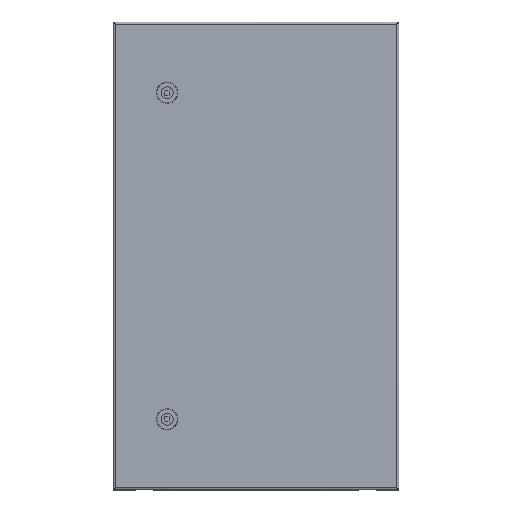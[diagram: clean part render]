
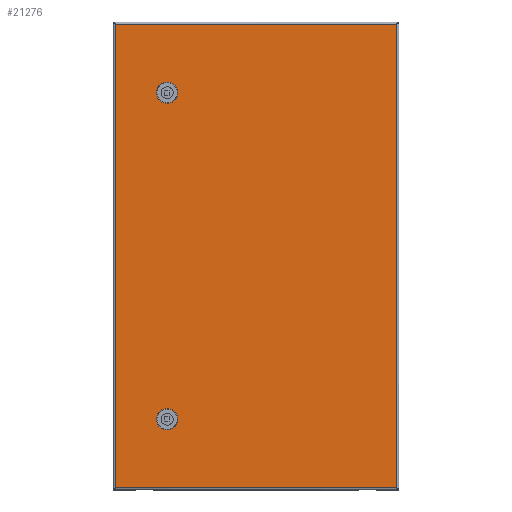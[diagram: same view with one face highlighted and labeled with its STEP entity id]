
A CAD part, top view. The second image highlights one B-rep face of the part: STEP entity #21276.
In plain terms, the highlighted planar face has unit normal (0, 0, 1).
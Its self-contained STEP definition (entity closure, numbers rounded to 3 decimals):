
#20386=CARTESIAN_POINT(' ',(2.8,0.8,0.));
#20391=DIRECTION(' ',(1.,0.,0.));
#20396=VECTOR(' ',#20391,1.);
#20401=LINE('',#20386,#20396);
#20406=CARTESIAN_POINT(' ',(2.8,0.8,0.));
#20407=VERTEX_POINT(' ',#20406);
#20411=CARTESIAN_POINT(' ',(391.2,0.8,0.));
#20412=VERTEX_POINT(' ',#20411);
#20416=EDGE_CURVE(' ',#20407,#20412,#20401,.T.);
#21136=DIRECTION(' ',(-0.,-0.,1.));
#21141=CARTESIAN_POINT(' ',(391.2,0.8,0.));
#21146=DIRECTION(' ',(0.,1.,0.));
#21151=AXIS2_PLACEMENT_3D(' ',#21141,#21136,#21146);
#21156=PLANE('NONE',#21151);
#21161=ORIENTED_EDGE(' ',*,*,#20416,.T.);
#21166=CARTESIAN_POINT(' ',(391.2,640.2,0.));
#21171=DIRECTION(' ',(0.,-1.,0.));
#21176=VECTOR(' ',#21171,1.);
#21181=LINE('',#21166,#21176);
#21186=CARTESIAN_POINT(' ',(391.2,640.2,0.));
#21187=VERTEX_POINT(' ',#21186);
#21191=EDGE_CURVE(' ',#21187,#20412,#21181,.T.);
#21196=ORIENTED_EDGE(' ',*,*,#21191,.F.);
#21201=CARTESIAN_POINT(' ',(391.2,640.2,0.));
#21206=DIRECTION(' ',(-1.,0.,0.));
#21211=VECTOR(' ',#21206,1.);
#21216=LINE('',#21201,#21211);
#21221=CARTESIAN_POINT(' ',(2.8,640.2,0.));
#21222=VERTEX_POINT(' ',#21221);
#21226=EDGE_CURVE(' ',#21187,#21222,#21216,.T.);
#21231=ORIENTED_EDGE(' ',*,*,#21226,.T.);
#21236=CARTESIAN_POINT(' ',(2.8,640.2,0.));
#21241=DIRECTION(' ',(0.,-1.,0.));
#21246=VECTOR(' ',#21241,1.);
#21251=LINE('',#21236,#21246);
#21256=EDGE_CURVE(' ',#21222,#20407,#21251,.T.);
#21261=ORIENTED_EDGE(' ',*,*,#21256,.T.);
#21266=EDGE_LOOP(' ',(#21161,#21196,#21231,#21261));
#21271=FACE_OUTER_BOUND(' ',#21266,.T.);
#21276=ADVANCED_FACE('NONE',(#21271),#21156,.T.);
